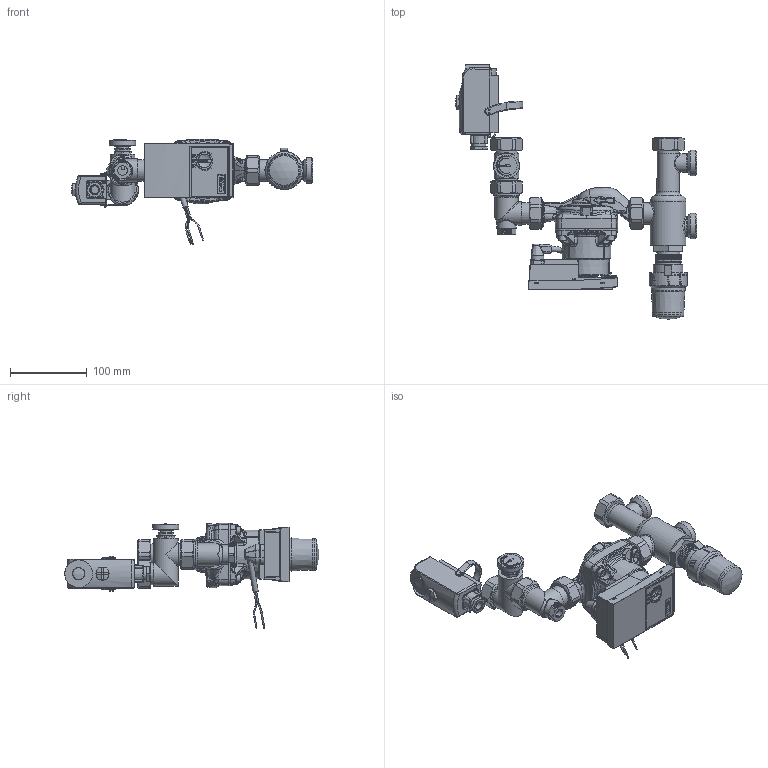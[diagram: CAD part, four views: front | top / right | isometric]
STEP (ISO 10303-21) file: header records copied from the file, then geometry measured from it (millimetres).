
FILE_DESCRIPTION((''),'2;1');
FILE_NAME('C:\Users\duckj\Desktop\10070291.stp','2017-05-24T07:46:44',('duckj'),(''),'Autodesk Inventor 2013','Autodesk Inventor 2013','');
FILE_SCHEMA(('CONFIG_CONTROL_DESIGN'));
Length unit declared in the file: millimetre
Products named in the file (1): 23052017_003
Bounding box: 313.49 x 330.5 x 137.2 mm (x, y, z)
Volume: 150181.7 mm3; surface area: 193378.5 mm2
Topology: 1 solids, 2 shells, 2915 faces, 7223 edges, 4500 vertices
Faces by surface type: plane 1245, bspline 761, cylinder 563, cone 160, torus 123, sphere 63
Full cylindrical faces by diameter (mm): 0.32 x2, 0.42 x1, 0.6 x2, 0.62 x2, 0.7 x1, 0.9 x2, 1 x1, 1.2 x3, 1.4 x3, 1.75 x6, 2 x1, 2.5 x1, 2.578 x1, 3 x1, 3.242 x1, 4 x1, 4.922 x1, 6 x4, 6.5 x4, 6.8 x1, 9.85 x4, 11 x1, 12.4 x1, 14 x1, 15 x1, 15.3 x2, 16 x1, 17 x1, 18 x3, 18.2 x1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
Entity records: 137115 total; most frequent: CARTESIAN_POINT 70458, ORIENTED_EDGE 13928, DIRECTION 11850, EDGE_CURVE 6964, VERTEX_POINT 4445, AXIS2_PLACEMENT_3D 4304, EDGE_LOOP 3337, VECTOR 3242
